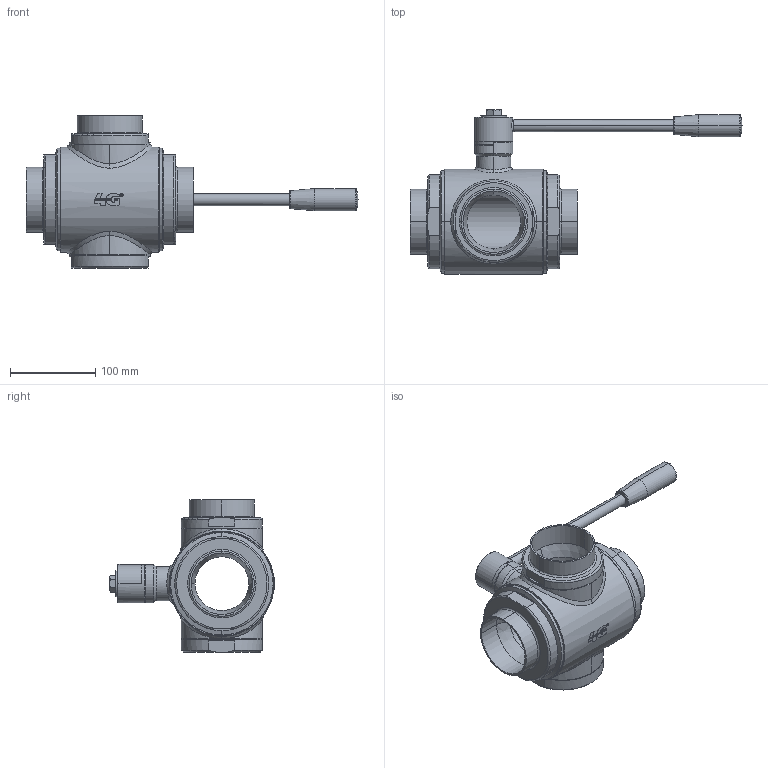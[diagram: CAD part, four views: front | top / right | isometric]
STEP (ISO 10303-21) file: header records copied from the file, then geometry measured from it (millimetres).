
FILE_DESCRIPTION((''),'2;1');
FILE_NAME('3001426U610_SW0001','2026-06-16T15:43:05',('tecnico2'),('CDM Tecnoconsulting'),'CREO PARAMETRIC BY PTC INC, 2024063','CREO PARAMETRIC BY PTC INC, 2024063','');
FILE_SCHEMA(('CONFIG_CONTROL_DESIGN','SHAPE_APPEARANCE_LAYERS_GROUPS'));
Products named in the file (1): 3001426U610_SW0001
Bounding box: 388.5 x 192.8 x 178 mm (x, y, z)
Volume: 1372629.5 mm3; surface area: 278535.4 mm2
Topology: 1 solids, 1 shells, 1005 faces, 2685 edges, 1706 vertices
Faces by surface type: plane 452, cylinder 216, cone 126, extrusion 112, bspline 57, torus 36, sphere 6
Entity records: 61789 total; most frequent: CARTESIAN_POINT 27426, ORIENTED_EDGE 5334, DIRECTION 4443, PRESENTATION_STYLE_ASSIGNMENT 3008, STYLED_ITEM 2724, CURVE_STYLE 2723, EDGE_CURVE 2667, VERTEX_POINT 1706
